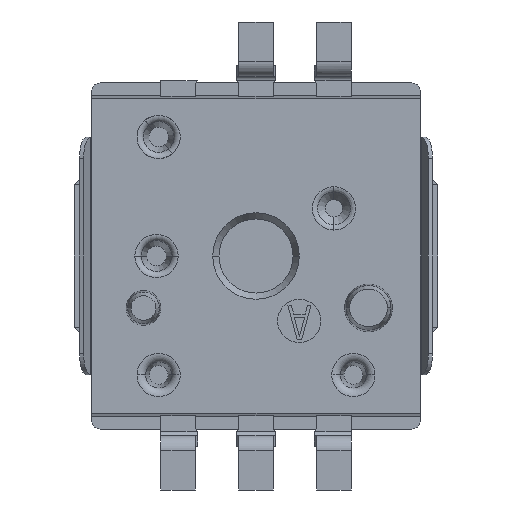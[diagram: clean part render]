
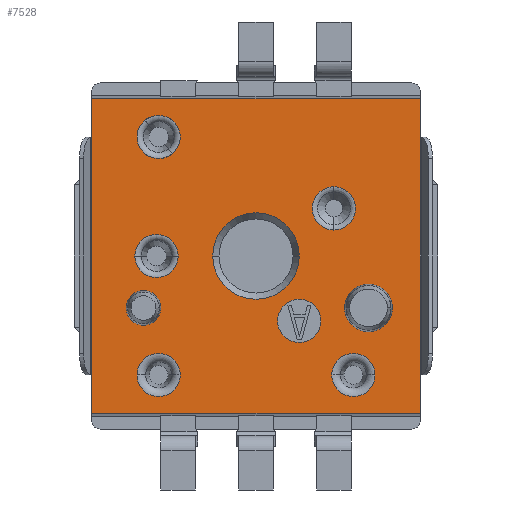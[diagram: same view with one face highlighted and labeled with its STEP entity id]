
A CAD part, front view. The second image highlights one B-rep face of the part: STEP entity #7528.
In plain terms, the highlighted planar face has unit normal (0, -1, 0).
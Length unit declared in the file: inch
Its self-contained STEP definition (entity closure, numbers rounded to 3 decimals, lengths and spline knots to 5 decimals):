
#1015=DIRECTION('',(1.,0.,0.));
#1016=VECTOR('',#1015,0.29921);
#1017=CARTESIAN_POINT('',(-0.14961,-0.03543,
0.14291));
#1018=LINE('',#1017,#1016);
#1019=DIRECTION('',(0.,0.,1.));
#1020=VECTOR('',#1019,0.28583);
#1021=CARTESIAN_POINT('',(0.14961,-0.03543,
-0.14291));
#1022=LINE('',#1021,#1020);
#1023=DIRECTION('',(1.,0.,0.));
#1024=VECTOR('',#1023,0.29921);
#1025=CARTESIAN_POINT('',(-0.14961,-0.03543,
-0.14291));
#1026=LINE('',#1025,#1024);
#1027=DIRECTION('',(0.,0.,-1.));
#1028=VECTOR('',#1027,0.28583);
#1029=CARTESIAN_POINT('',(-0.14961,-0.03543,
0.14291));
#1030=LINE('',#1029,#1028);
#1031=CARTESIAN_POINT('',(-0.08858,-0.03543,
-0.10827));
#1032=DIRECTION('',(0.,1.,0.));
#1033=DIRECTION('',(1.,0.,0.));
#1034=AXIS2_PLACEMENT_3D('',#1031,#1032,#1033);
#1036=CARTESIAN_POINT('',(-0.08858,-0.03543,
-0.10827));
#1037=DIRECTION('',(0.,1.,0.));
#1038=DIRECTION('',(-1.,0.,0.));
#1039=AXIS2_PLACEMENT_3D('',#1036,#1037,#1038);
#1041=CARTESIAN_POINT('',(0.08858,-0.03543,
-0.10827));
#1042=DIRECTION('',(0.,1.,0.));
#1043=DIRECTION('',(1.,0.,0.));
#1044=AXIS2_PLACEMENT_3D('',#1041,#1042,#1043);
#1046=CARTESIAN_POINT('',(0.08858,-0.03543,
-0.10827));
#1047=DIRECTION('',(0.,1.,0.));
#1048=DIRECTION('',(-1.,0.,0.));
#1049=AXIS2_PLACEMENT_3D('',#1046,#1047,#1048);
#1051=CARTESIAN_POINT('',(-0.08858,-0.03543,
0.10827));
#1052=DIRECTION('',(0.,1.,0.));
#1053=DIRECTION('',(1.,0.,0.));
#1054=AXIS2_PLACEMENT_3D('',#1051,#1052,#1053);
#1056=CARTESIAN_POINT('',(-0.08858,-0.03543,
0.10827));
#1057=DIRECTION('',(0.,1.,0.));
#1058=DIRECTION('',(-1.,0.,0.));
#1059=AXIS2_PLACEMENT_3D('',#1056,#1057,#1058);
#1061=CARTESIAN_POINT('',(0.07087,-0.03543,
0.04331));
#1062=DIRECTION('',(0.,1.,0.));
#1063=DIRECTION('',(0.,0.,1.));
#1064=AXIS2_PLACEMENT_3D('',#1061,#1062,#1063);
#1066=CARTESIAN_POINT('',(0.07087,-0.03543,
0.04331));
#1067=DIRECTION('',(0.,1.,0.));
#1068=DIRECTION('',(0.,0.,-1.));
#1069=AXIS2_PLACEMENT_3D('',#1066,#1067,#1068);
#1071=CARTESIAN_POINT('',(-0.09055,-0.03543,0.));
#1072=DIRECTION('',(0.,1.,0.));
#1073=DIRECTION('',(1.,0.,0.));
#1074=AXIS2_PLACEMENT_3D('',#1071,#1072,#1073);
#1076=CARTESIAN_POINT('',(-0.09055,-0.03543,0.));
#1077=DIRECTION('',(0.,1.,0.));
#1078=DIRECTION('',(-1.,0.,0.));
#1079=AXIS2_PLACEMENT_3D('',#1076,#1077,#1078);
#1081=CARTESIAN_POINT('',(0.03937,-0.03543,
-0.05906));
#1082=DIRECTION('',(0.,-1.,0.));
#1083=DIRECTION('',(-1.,0.,0.));
#1084=AXIS2_PLACEMENT_3D('',#1081,#1082,#1083);
#1086=CARTESIAN_POINT('',(0.03937,-0.03543,
-0.05906));
#1087=DIRECTION('',(0.,-1.,0.));
#1088=DIRECTION('',(1.,0.,0.));
#1089=AXIS2_PLACEMENT_3D('',#1086,#1087,#1088);
#1091=CARTESIAN_POINT('',(0.10236,-0.03543,
-0.04724));
#1092=DIRECTION('',(0.,-1.,0.));
#1093=DIRECTION('',(1.,0.,0.));
#1094=AXIS2_PLACEMENT_3D('',#1091,#1092,#1093);
#1096=CARTESIAN_POINT('',(0.10236,-0.03543,
-0.04724));
#1097=DIRECTION('',(0.,-1.,0.));
#1098=DIRECTION('',(-1.,0.,0.));
#1099=AXIS2_PLACEMENT_3D('',#1096,#1097,#1098);
#1101=CARTESIAN_POINT('',(-0.10236,-0.03543,
-0.04724));
#1102=DIRECTION('',(0.,-1.,0.));
#1103=DIRECTION('',(1.,0.,0.));
#1104=AXIS2_PLACEMENT_3D('',#1101,#1102,#1103);
#1106=CARTESIAN_POINT('',(-0.10236,-0.03543,
-0.04724));
#1107=DIRECTION('',(0.,-1.,0.));
#1108=DIRECTION('',(-1.,0.,0.));
#1109=AXIS2_PLACEMENT_3D('',#1106,#1107,#1108);
#1111=CARTESIAN_POINT('',(0.,-0.03543,0.));
#1112=DIRECTION('',(0.,1.,0.));
#1113=DIRECTION('',(1.,0.,0.));
#1114=AXIS2_PLACEMENT_3D('',#1111,#1112,#1113);
#1116=CARTESIAN_POINT('',(0.,-0.03543,0.));
#1117=DIRECTION('',(0.,1.,0.));
#1118=DIRECTION('',(-1.,0.,0.));
#1119=AXIS2_PLACEMENT_3D('',#1116,#1117,#1118);
#4737=CARTESIAN_POINT('',(0.01969,-0.03543,
-0.05906));
#4738=CARTESIAN_POINT('',(0.05906,-0.03543,
-0.05906));
#4739=VERTEX_POINT('',#4737);
#4740=VERTEX_POINT('',#4738);
#4793=CARTESIAN_POINT('',(0.03937,-0.03543,0.));
#4794=CARTESIAN_POINT('',(-0.03937,-0.03543,0.));
#4795=VERTEX_POINT('',#4793);
#4796=VERTEX_POINT('',#4794);
#4805=CARTESIAN_POINT('',(0.12402,-0.03543,
-0.04724));
#4806=CARTESIAN_POINT('',(0.08071,-0.03543,
-0.04724));
#4807=VERTEX_POINT('',#4805);
#4808=VERTEX_POINT('',#4806);
#4817=CARTESIAN_POINT('',(-0.08661,-0.03543,
-0.04724));
#4818=CARTESIAN_POINT('',(-0.11811,-0.03543,
-0.04724));
#4819=VERTEX_POINT('',#4817);
#4820=VERTEX_POINT('',#4818);
#4829=CARTESIAN_POINT('',(-0.07087,-0.03543,0.));
#4830=CARTESIAN_POINT('',(-0.11024,-0.03543,0.));
#4831=VERTEX_POINT('',#4829);
#4832=VERTEX_POINT('',#4830);
#4839=CARTESIAN_POINT('',(-0.0689,-0.03543,
-0.10827));
#4840=CARTESIAN_POINT('',(-0.10827,-0.03543,
-0.10827));
#4841=VERTEX_POINT('',#4839);
#4842=VERTEX_POINT('',#4840);
#4843=CARTESIAN_POINT('',(0.10827,-0.03543,
-0.10827));
#4844=CARTESIAN_POINT('',(0.0689,-0.03543,
-0.10827));
#4845=VERTEX_POINT('',#4843);
#4846=VERTEX_POINT('',#4844);
#4889=CARTESIAN_POINT('',(-0.14961,-0.03543,
0.14291));
#4890=CARTESIAN_POINT('',(0.14961,-0.03543,
0.14291));
#4891=VERTEX_POINT('',#4889);
#4892=VERTEX_POINT('',#4890);
#4893=CARTESIAN_POINT('',(-0.14961,-0.03543,
-0.14291));
#4894=CARTESIAN_POINT('',(0.14961,-0.03543,
-0.14291));
#4895=VERTEX_POINT('',#4893);
#4896=VERTEX_POINT('',#4894);
#4953=CARTESIAN_POINT('',(-0.0689,-0.03543,
0.10827));
#4954=CARTESIAN_POINT('',(-0.10827,-0.03543,
0.10827));
#4955=VERTEX_POINT('',#4953);
#4956=VERTEX_POINT('',#4954);
#4973=CARTESIAN_POINT('',(0.07087,-0.03543,
0.06299));
#4974=CARTESIAN_POINT('',(0.07087,-0.03543,
0.02362));
#4975=VERTEX_POINT('',#4973);
#4976=VERTEX_POINT('',#4974);
#7462=CARTESIAN_POINT('',(0.,-0.03543,0.));
#7463=DIRECTION('',(0.,-1.,0.));
#7464=DIRECTION('',(1.,0.,0.));
#7465=AXIS2_PLACEMENT_3D('',#7462,#7463,#7464);
#7466=PLANE('',#7465);
#7467=ORIENTED_EDGE('',*,*,#6455,.T.);
#7468=ORIENTED_EDGE('',*,*,#6053,.F.);
#7470=ORIENTED_EDGE('',*,*,#7469,.F.);
#7471=ORIENTED_EDGE('',*,*,#6286,.F.);
#7472=EDGE_LOOP('',(#7467,#7468,#7470,#7471));
#7473=FACE_OUTER_BOUND('',#7472,.F.);
#7475=ORIENTED_EDGE('',*,*,#7474,.F.);
#7477=ORIENTED_EDGE('',*,*,#7476,.F.);
#7478=EDGE_LOOP('',(#7475,#7477));
#7479=FACE_BOUND('',#7478,.F.);
#7481=ORIENTED_EDGE('',*,*,#7480,.F.);
#7483=ORIENTED_EDGE('',*,*,#7482,.F.);
#7484=EDGE_LOOP('',(#7481,#7483));
#7485=FACE_BOUND('',#7484,.F.);
#7487=ORIENTED_EDGE('',*,*,#7486,.F.);
#7489=ORIENTED_EDGE('',*,*,#7488,.F.);
#7490=EDGE_LOOP('',(#7487,#7489));
#7491=FACE_BOUND('',#7490,.F.);
#7493=ORIENTED_EDGE('',*,*,#7492,.F.);
#7495=ORIENTED_EDGE('',*,*,#7494,.F.);
#7496=EDGE_LOOP('',(#7493,#7495));
#7497=FACE_BOUND('',#7496,.F.);
#7499=ORIENTED_EDGE('',*,*,#7498,.F.);
#7501=ORIENTED_EDGE('',*,*,#7500,.F.);
#7502=EDGE_LOOP('',(#7499,#7501));
#7503=FACE_BOUND('',#7502,.F.);
#7505=ORIENTED_EDGE('',*,*,#7504,.T.);
#7507=ORIENTED_EDGE('',*,*,#7506,.T.);
#7508=EDGE_LOOP('',(#7505,#7507));
#7509=FACE_BOUND('',#7508,.F.);
#7511=ORIENTED_EDGE('',*,*,#7510,.T.);
#7513=ORIENTED_EDGE('',*,*,#7512,.T.);
#7514=EDGE_LOOP('',(#7511,#7513));
#7515=FACE_BOUND('',#7514,.F.);
#7517=ORIENTED_EDGE('',*,*,#7516,.T.);
#7519=ORIENTED_EDGE('',*,*,#7518,.T.);
#7520=EDGE_LOOP('',(#7517,#7519));
#7521=FACE_BOUND('',#7520,.F.);
#7523=ORIENTED_EDGE('',*,*,#7522,.F.);
#7525=ORIENTED_EDGE('',*,*,#7524,.F.);
#7526=EDGE_LOOP('',(#7523,#7525));
#7527=FACE_BOUND('',#7526,.F.);
#7528=ADVANCED_FACE('',(#7473,#7479,#7485,#7491,#7497,#7503,#7509,#7515,#7521,
#7527),#7466,.T.);
#1035=CIRCLE('',#1034,0.01969);
#1040=CIRCLE('',#1039,0.01969);
#1045=CIRCLE('',#1044,0.01969);
#1050=CIRCLE('',#1049,0.01969);
#1055=CIRCLE('',#1054,0.01969);
#1060=CIRCLE('',#1059,0.01969);
#1065=CIRCLE('',#1064,0.01969);
#1070=CIRCLE('',#1069,0.01969);
#1075=CIRCLE('',#1074,0.01969);
#1080=CIRCLE('',#1079,0.01969);
#1085=CIRCLE('',#1084,0.01969);
#1090=CIRCLE('',#1089,0.01969);
#1095=CIRCLE('',#1094,0.02165);
#1100=CIRCLE('',#1099,0.02165);
#1105=CIRCLE('',#1104,0.01575);
#1110=CIRCLE('',#1109,0.01575);
#1115=CIRCLE('',#1114,0.03937);
#1120=CIRCLE('',#1119,0.03937);
#6053=EDGE_CURVE('',#4896,#4892,#1022,.T.);
#6286=EDGE_CURVE('',#4891,#4895,#1030,.T.);
#6455=EDGE_CURVE('',#4891,#4892,#1018,.T.);
#7469=EDGE_CURVE('',#4895,#4896,#1026,.T.);
#7474=EDGE_CURVE('',#4841,#4842,#1035,.T.);
#7476=EDGE_CURVE('',#4842,#4841,#1040,.T.);
#7480=EDGE_CURVE('',#4845,#4846,#1045,.T.);
#7482=EDGE_CURVE('',#4846,#4845,#1050,.T.);
#7486=EDGE_CURVE('',#4955,#4956,#1055,.T.);
#7488=EDGE_CURVE('',#4956,#4955,#1060,.T.);
#7492=EDGE_CURVE('',#4975,#4976,#1065,.T.);
#7494=EDGE_CURVE('',#4976,#4975,#1070,.T.);
#7498=EDGE_CURVE('',#4831,#4832,#1075,.T.);
#7500=EDGE_CURVE('',#4832,#4831,#1080,.T.);
#7504=EDGE_CURVE('',#4739,#4740,#1085,.T.);
#7506=EDGE_CURVE('',#4740,#4739,#1090,.T.);
#7510=EDGE_CURVE('',#4807,#4808,#1095,.T.);
#7512=EDGE_CURVE('',#4808,#4807,#1100,.T.);
#7516=EDGE_CURVE('',#4819,#4820,#1105,.T.);
#7518=EDGE_CURVE('',#4820,#4819,#1110,.T.);
#7522=EDGE_CURVE('',#4795,#4796,#1115,.T.);
#7524=EDGE_CURVE('',#4796,#4795,#1120,.T.);
